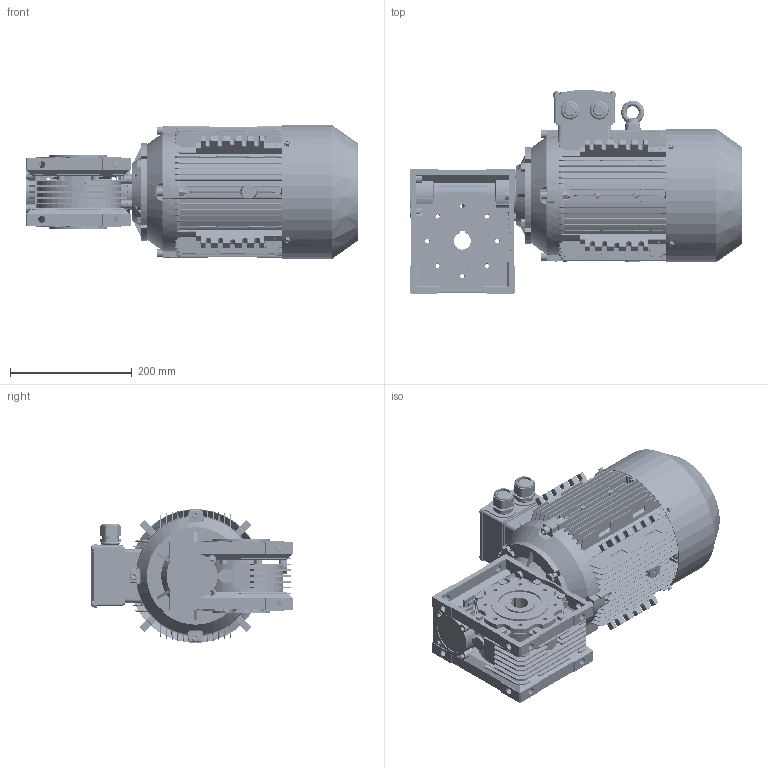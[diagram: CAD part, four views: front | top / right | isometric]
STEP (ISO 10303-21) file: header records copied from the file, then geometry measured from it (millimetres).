
FILE_DESCRIPTION (( 'STEP AP214' ), '1' );
FILE_NAME ('CMRV075_MX3-112M.STEP', '2018-07-31T09:00:07', ( '' ), ( '' ), 'SwSTEP 2.0', 'SolidWorks 2012', '' );
FILE_SCHEMA (( 'AUTOMOTIVE_DESIGN' ));
Length unit declared in the file: millimetre
Products named in the file (24): MX3-112_B14; DMX-IE3 112 Flange; DMX-IE3 112  cable glands_3; hexagon flange head tapping screws gb_GB_SQUARE_AND_HEXAGON_TYPE137 ST4.8X9.5 C-N_3; eyebolts gb_GB_FASTENER_SCREWS_FRS M8-N_3; cross recessed pan head screws gb_GB_CROSS_SCREWS_TYPE1 M5X12-12  H type-N_3; DMX-IE3 112terminal box cover_3; DMX-IE3 112terminal box base_3; plain parallel keys_GB_CONNECTING_PIECE_KEYS_CSK 8X50_3; DMX-IE3 112   fan cover_3; hexagon socket head cap screws gb_GB_FASTENER_SCREWS_HSHCS M8X40-N_3; hexagon nuts grade c gb_GB_FASTENER_NUT_SNC1 M8-N_3; spring lock washers--normal type gb_GB_FASTENER_WASHER_SW 8_3; circlips for shaft--type a large gb_GB_CONNECTING_PIECE_RING_RRA 28_3; DMX-IE3 112 fan_3; DMX-IE3 oil seal_3; DMX-IE3 112M4  oil seal_3; deep groove ball bearings gb_Rolling bearings 6206 GB 276-94_3; deep groove ball bearings gb_Rolling bearings 6306 GB 276-94_3; DMX-IE3 112 shield_3; DMX-IE3 112 shaft_3; DMX-IE3 112M4 casing_3; CMRV075_B10; CMRV075_MX3-112M
Assembly tree (52 placements, depth 3):
  CMRV075_MX3-112M
    CMRV075_B10
    MX3-112_B14
      DMX-IE3 112M4 casing_3
      DMX-IE3 112 shaft_3
      DMX-IE3 112 shield_3
      deep groove ball bearings gb_Rolling bearings 6306 GB 276-94_3
      deep groove ball bearings gb_Rolling bearings 6206 GB 276-94_3
      DMX-IE3 112M4  oil seal_3
      DMX-IE3 oil seal_3
      DMX-IE3 112 fan_3
      circlips for shaft--type a large gb_GB_CONNECTING_PIECE_RING_RRA 28_3
      spring lock washers--normal type gb_GB_FASTENER_WASHER_SW 8_3  x8
      hexagon nuts grade c gb_GB_FASTENER_NUT_SNC1 M8-N_3  x8
      hexagon socket head cap screws gb_GB_FASTENER_SCREWS_HSHCS M8X40-N_3  x8
      DMX-IE3 112   fan cover_3
      plain parallel keys_GB_CONNECTING_PIECE_KEYS_CSK 8X50_3
      DMX-IE3 112terminal box base_3
      DMX-IE3 112terminal box cover_3
      cross recessed pan head screws gb_GB_CROSS_SCREWS_TYPE1 M5X12-12  H type-N_3  x4
      eyebolts gb_GB_FASTENER_SCREWS_FRS M8-N_3
      hexagon flange head tapping screws gb_GB_SQUARE_AND_HEXAGON_TYPE137 ST4.8X9.5 C-N_3  x5
      DMX-IE3 112  cable glands_3  x2
      DMX-IE3 112 Flange
Bounding box: 545.75 x 333.6 x 219.16 mm (x, y, z)
Volume: 1462903.6 mm3; surface area: 1722799.6 mm2
Topology: 50 solids, 62 shells, 7329 faces, 19741 edges, 12313 vertices
Faces by surface type: plane 2767, cylinder 2087, bspline 1619, cone 635, torus 111, sphere 110
Entity records: 293640 total; most frequent: CARTESIAN_POINT 124669, ORIENTED_EDGE 35339, DIRECTION 29492, EDGE_CURVE 18021, VERTEX_POINT 11360, AXIS2_PLACEMENT_3D 10454, LINE 8584, VECTOR 8584
